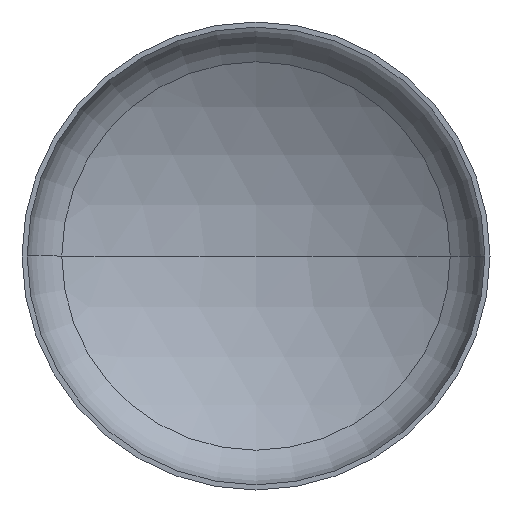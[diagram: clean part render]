
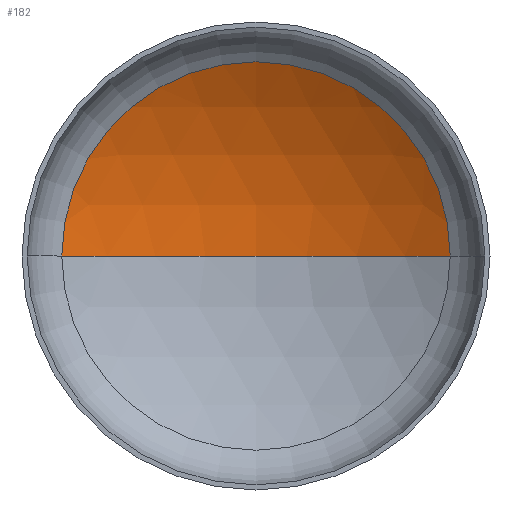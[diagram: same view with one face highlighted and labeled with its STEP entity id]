
A CAD part, front view. The second image highlights one B-rep face of the part: STEP entity #182.
In plain terms, the highlighted spherical face has radius 6400 mm.
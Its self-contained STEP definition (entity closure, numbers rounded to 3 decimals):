
#15 = ORIENTED_EDGE ( 'NONE', *, *, #171, .T. ) ;
#22 = ORIENTED_EDGE ( 'NONE', *, *, #172, .T. ) ;
#43 = CIRCLE ( 'NONE', #104, 6400. ) ;
#71 = ORIENTED_EDGE ( 'NONE', *, *, #176, .F. ) ;
#72 = AXIS2_PLACEMENT_3D ( 'NONE', #337, #197, #198 ) ;
#79 = VERTEX_POINT ( 'NONE', #235 ) ;
#90 = AXIS2_PLACEMENT_3D ( 'NONE', #204, #341, #164 ) ;
#97 = VERTEX_POINT ( 'NONE', #222 ) ;
#104 = AXIS2_PLACEMENT_3D ( 'NONE', #202, #361, #234 ) ;
#118 = AXIS2_PLACEMENT_3D ( 'NONE', #165, #167, #168 ) ;
#149 = CARTESIAN_POINT ( 'NONE',  ( 0., 2080.071, 0. ) ) ;
#164 = DIRECTION ( 'NONE',  ( 1., 0., 0. ) ) ;
#165 = CARTESIAN_POINT ( 'NONE',  ( 0., 1151.55, 0. ) ) ;
#167 = DIRECTION ( 'NONE',  ( 0., -1., 0. ) ) ;
#168 = DIRECTION ( 'NONE',  ( 1., 0., 0. ) ) ;
#171 = EDGE_CURVE ( 'NONE', #79, #97, #185, .T. ) ;
#172 = EDGE_CURVE ( 'NONE', #212, #79, #43, .T. ) ;
#176 = EDGE_CURVE ( 'NONE', #212, #97, #307, .T. ) ;
#182 = ADVANCED_FACE ( 'NONE', ( #246 ), #354, .F. ) ;
#185 = CIRCLE ( 'NONE', #118, 3320.077 ) ;
#197 = DIRECTION ( 'NONE',  ( 0., 0., -1. ) ) ;
#198 = DIRECTION ( 'NONE',  ( -1., 0., 0. ) ) ;
#202 = CARTESIAN_POINT ( 'NONE',  ( 0., -4319.929, 0. ) ) ;
#204 = CARTESIAN_POINT ( 'NONE',  ( 0., -4319.929, 0. ) ) ;
#212 = VERTEX_POINT ( 'NONE', #149 ) ;
#222 = CARTESIAN_POINT ( 'NONE',  ( -3320.077, 1151.55, 0. ) ) ;
#231 = EDGE_LOOP ( 'NONE', ( #71, #22, #15 ) ) ;
#234 = DIRECTION ( 'NONE',  ( -1., 0., 0. ) ) ;
#235 = CARTESIAN_POINT ( 'NONE',  ( 3320.077, 1151.55, 0. ) ) ;
#246 = FACE_OUTER_BOUND ( 'NONE', #231, .T. ) ;
#307 = CIRCLE ( 'NONE', #90, 6400. ) ;
#337 = CARTESIAN_POINT ( 'NONE',  ( 0., -4319.929, 0. ) ) ;
#341 = DIRECTION ( 'NONE',  ( 0., 0., 1. ) ) ;
#354 = SPHERICAL_SURFACE ( 'NONE', #72, 6400. ) ;
#361 = DIRECTION ( 'NONE',  ( 0., 0., -1. ) ) ;
